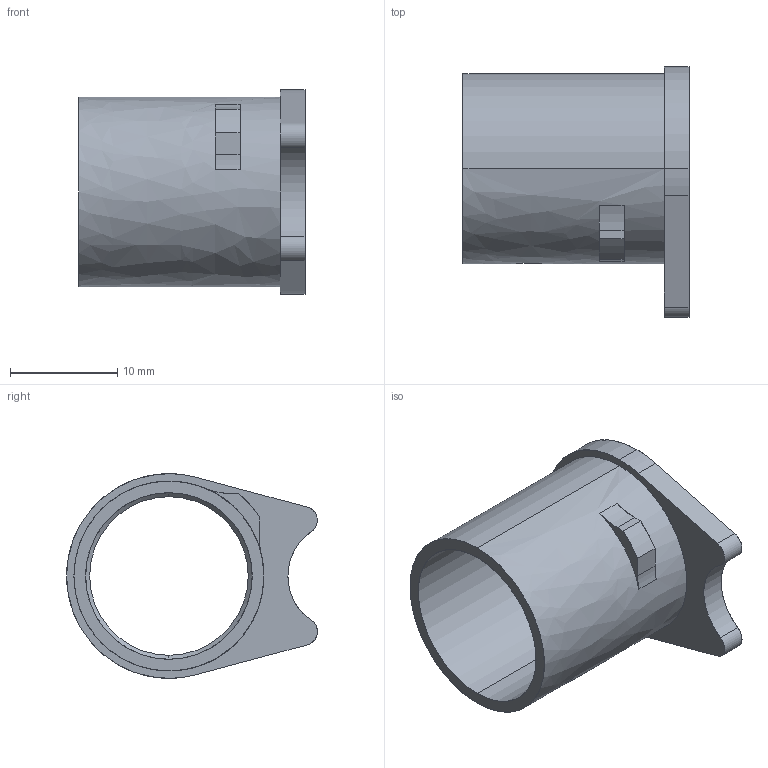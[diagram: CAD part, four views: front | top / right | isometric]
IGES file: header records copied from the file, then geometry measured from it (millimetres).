
Start section: SolidWorks IGES file using analytic representation for surfaces
Global section: file name: C:\Documents and Settings\user\My Documents\CAD\1911\1911 Barrel Bushing - TehVice.IGS; native system: SolidWorks 2005 by SolidWorks Corporation; preprocessor: SolidWorks 2005 by SolidWorks Corporation; author: user; date: 090422.195634; units: inch
Bounding box: 21.03 x 23.35 x 19.05 mm (x, y, z)
Surface area: 2568 mm2 (no closed solid volume)
Topology: 0 solids, 0 shells, 26 faces, 338 edges, 338 vertices
Faces by surface type: revolution 17, bspline 9
